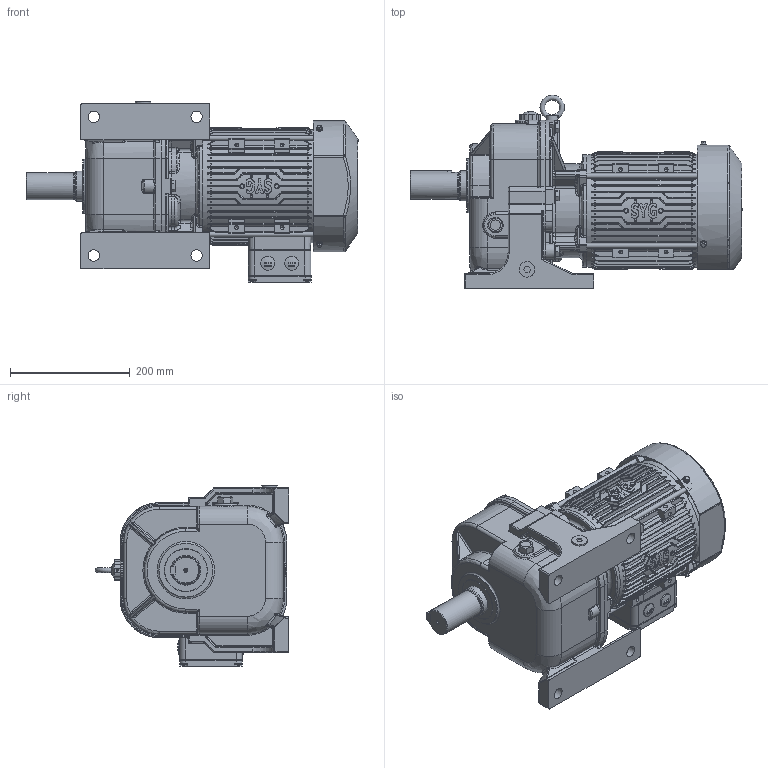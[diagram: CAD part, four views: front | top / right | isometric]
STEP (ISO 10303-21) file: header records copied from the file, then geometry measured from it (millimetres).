
FILE_DESCRIPTION(/* description */ (''),/* implementation_level */ '2;1');
FILE_NAME(/* name */ 'D:\▼ 3D：MG\01. 내부 직접 검토품\MG 172\외형도용 - ASS''Y\SK2\MG1720A - OUTLINE (SK2，HT，2.2kW).stp',/* time_stamp */ '2026-03-31T17:25:36+09:00',/* author */ ('이정훈'),/* organization */ (''),/* preprocessor_version */ 'ST-DEVELOPER v18.1',/* originating_system */ 'Autodesk Inventor 2022',/* authorisation */ '');
FILE_SCHEMA (('AUTOMOTIVE_DESIGN { 1 0 10303 214 3 1 1 }'));
Products named in the file (1): MG1720A - OUTLINE (SK2，HT，2.2kW
)
Bounding box: 555.5 x 323.5 x 301.4 mm (x, y, z)
Volume: 16308749.9 mm3; surface area: 836415.4 mm2
Topology: 2 solids, 2 shells, 4546 faces, 11488 edges, 6933 vertices
Faces by surface type: plane 1589, cylinder 1420, bspline 997, cone 228, torus 199, sphere 113
Full cylindrical faces by diameter (mm): 3.504 x1, 4 x1, 5.5 x3, 8 x4, 9 x4, 9.5 x4, 10 x7, 12 x7, 13 x4, 19 x4, 23 x3, 26 x3, 26.194 x1, 30.5 x1, 44.4 x1, 45 x1, 47 x1, 50 x1, 62 x1, 72 x1, 90 x1, 189 x2
Entity records: 188203 total; most frequent: CARTESIAN_POINT 83381, ORIENTED_EDGE 22812, DIRECTION 21083, EDGE_CURVE 11406, AXIS2_PLACEMENT_3D 8246, VERTEX_POINT 6945, EDGE_LOOP 4677, LINE 4591
